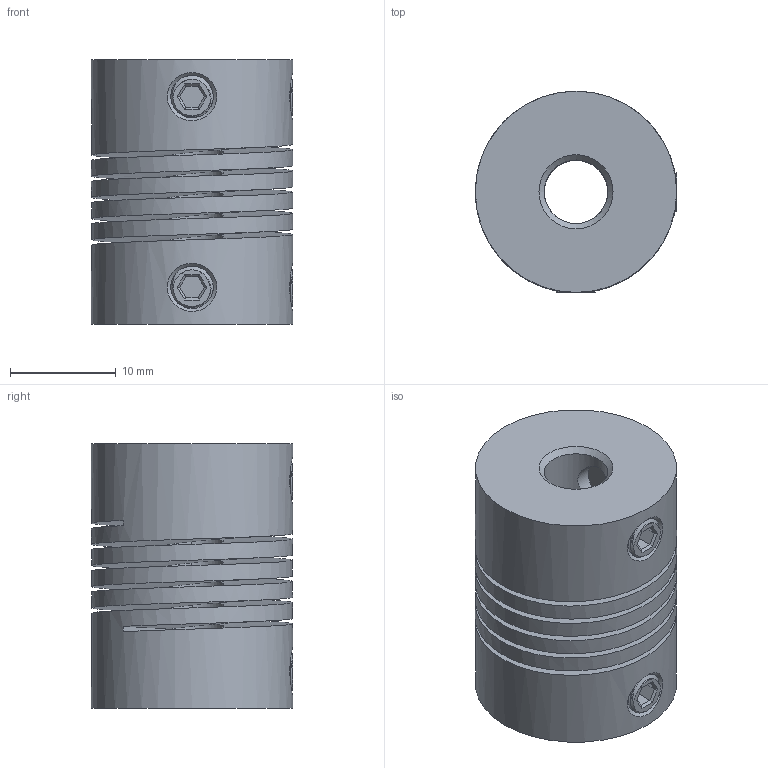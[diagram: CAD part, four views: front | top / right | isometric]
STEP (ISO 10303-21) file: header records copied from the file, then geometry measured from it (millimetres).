
FILE_DESCRIPTION(/* description */ (''),/* implementation_level */ '2;1');
FILE_NAME(/* name */ '6MM-1.stp',/* time_stamp */ '2023-06-28T18:10:59+08:00',/* author */ (''),/* organization */ (''),/* preprocessor_version */ 'ST-DEVELOPER v16.7',/* originating_system */ 'SIEMENS PLM Software NX 12.0',/* authorisation */ '');
FILE_SCHEMA (('AP203_CONFIGURATION_CONTROLLED_3D_DESIGN_OF_MECHANICAL_PARTS_AND_ASSEMBLIES_MIM_LF { 1 0 10303 403 2 1 2}'));
Length unit declared in the file: millimetre
Products named in the file (1): 29010CB0C2AExzgu
Bounding box: 19 x 19 x 25 mm (x, y, z)
Volume: 5606.1 mm3; surface area: 5643.5 mm2
Topology: 5 solids, 5 shells, 106 faces, 267 edges, 169 vertices
Faces by surface type: plane 64, cylinder 22, bspline 14, cone 6
Full cylindrical faces by diameter (mm): 4 x4, 6 x5, 19 x5
Entity records: 21518 total; most frequent: CARTESIAN_POINT 19365, ORIENTED_EDGE 420, DIRECTION 350, EDGE_CURVE 210, VERTEX_POINT 138, EDGE_LOOP 126, LINE 120, VECTOR 120
